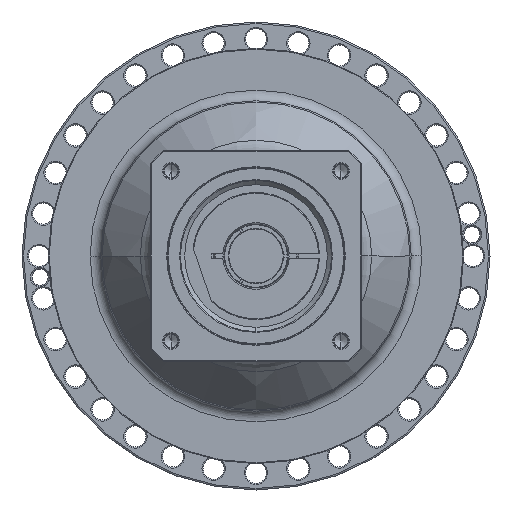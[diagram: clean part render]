
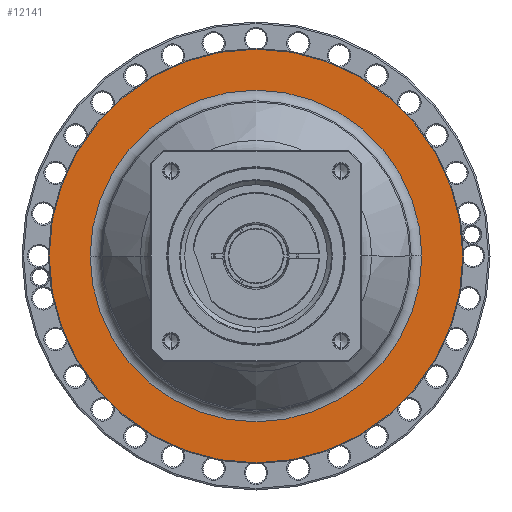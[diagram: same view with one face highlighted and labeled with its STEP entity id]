
A CAD part, left-side view. The second image highlights one B-rep face of the part: STEP entity #12141.
In plain terms, the highlighted planar face has unit normal (-1, 0, 0) as drawn and (1, 0, 0) by its records, which use the part's own axes.
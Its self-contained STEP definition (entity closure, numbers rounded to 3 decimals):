
#11644=CARTESIAN_POINT('',(-56.,0.,0.));
#11645=DIRECTION('',(-1.,0.,0.));
#11646=DIRECTION('',(0.,1.,0.));
#11647=AXIS2_PLACEMENT_3D('',#11644,#11645,#11646);
#11659=CARTESIAN_POINT('',(-56.,0.,0.));
#11660=DIRECTION('',(1.,0.,0.));
#11661=DIRECTION('',(0.,1.,0.));
#11662=AXIS2_PLACEMENT_3D('',#11659,#11660,#11661);
#11664=CARTESIAN_POINT('',(-56.,0.,0.));
#11665=DIRECTION('',(-1.,0.,0.));
#11666=DIRECTION('',(0.,-1.,0.));
#11667=AXIS2_PLACEMENT_3D('',#11664,#11665,#11666);
#11669=CARTESIAN_POINT('',(-56.,0.,0.));
#11670=DIRECTION('',(-1.,0.,0.));
#11671=DIRECTION('',(0.,1.,0.));
#11672=AXIS2_PLACEMENT_3D('',#11669,#11670,#11671);
#11794=CARTESIAN_POINT('',(-56.,-133.5,0.));
#11795=CARTESIAN_POINT('',(-56.,133.5,0.));
#11796=VERTEX_POINT('',#11794);
#11797=VERTEX_POINT('',#11795);
#11818=CARTESIAN_POINT('',(-56.,107.,0.));
#11819=CARTESIAN_POINT('',(-56.,-107.,0.));
#11820=VERTEX_POINT('',#11818);
#11821=VERTEX_POINT('',#11819);
#12126=CARTESIAN_POINT('',(-56.,0.,0.));
#12127=DIRECTION('',(1.,0.,0.));
#12128=DIRECTION('',(0.,-1.,0.));
#12129=AXIS2_PLACEMENT_3D('',#12126,#12127,#12128);
#12130=PLANE('',#12129);
#12132=ORIENTED_EDGE('',*,*,#12131,.T.);
#12134=ORIENTED_EDGE('',*,*,#12133,.T.);
#12135=EDGE_LOOP('',(#12132,#12134));
#12136=FACE_OUTER_BOUND('',#12135,.F.);
#12137=ORIENTED_EDGE('',*,*,#12120,.T.);
#12138=ORIENTED_EDGE('',*,*,#12106,.F.);
#12139=EDGE_LOOP('',(#12137,#12138));
#12140=FACE_BOUND('',#12139,.F.);
#12141=ADVANCED_FACE('',(#12136,#12140),#12130,.T.);
#11648=CIRCLE('',#11647,107.);
#11663=CIRCLE('',#11662,107.);
#11668=CIRCLE('',#11667,133.5);
#11673=CIRCLE('',#11672,133.5);
#12106=EDGE_CURVE('',#11820,#11821,#11648,.T.);
#12120=EDGE_CURVE('',#11820,#11821,#11663,.T.);
#12131=EDGE_CURVE('',#11796,#11797,#11668,.T.);
#12133=EDGE_CURVE('',#11797,#11796,#11673,.T.);
